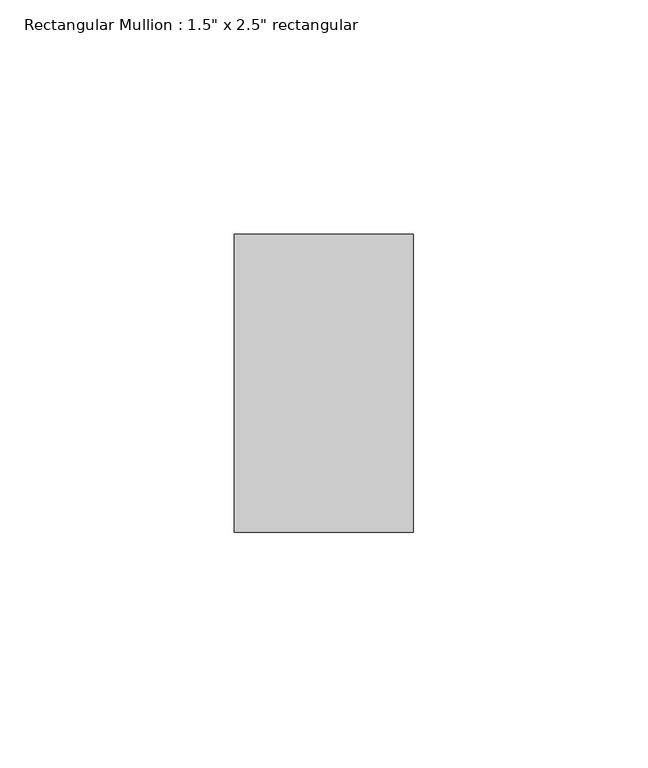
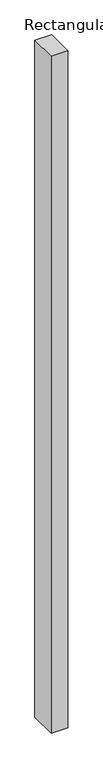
"""IFC4 building model written with IfcOpenShell, lengths in millimetres: member geometry."""

from ifc_helpers import new_model, si_unit, frame, origin, place, context, project, spatial, polyline, outline, extrude, source, transform, mapped, element, save


def member_0bac036f(model_context):
    return source(origin(), model_context, "Body", "SweptSolid", [
        extrude(outline(polyline([(19.05, 31.75), (19.05, -31.75), (-19.05, -31.75), (-19.05, 31.75), (19.05, 31.75)])), frame((0.0, 0.0, -1626.1413048), z_axis=(0.0, 0.0, 1.0), x_axis=(1.0, 0.0, 0.0)), (0.0, 0.0, 1.0), 1626.1413048),
    ])


if __name__ == "__main__":
    model = new_model("IFC4")
    model_context = context("Model", 3, world=origin())
    ifc_project = project(units=[si_unit("LENGTHUNIT", "METRE", prefix="MILLI")], contexts=[model_context])
    site = spatial("IfcSite", under=ifc_project)
    building = spatial("IfcBuilding", under=site)
    placement = place(None, origin())
    member_shape = member_0bac036f(model_context)
    element("IfcMember", 1, ObjectType="Rectangular Mullion : 1.5\" x 2.5\" rectangular", at=placement, inside=building, context=model_context, shape_type="MappedRepresentation", body=[
        mapped(member_shape, transform((0.0, 0.0, 0.0), x_axis=(1.0, 0.0, 0.0), y_axis=(0.0, 1.0, 0.0), z_axis=(0.0, 0.0, 1.0))),
    ])
    save(model, "model.ifc")
